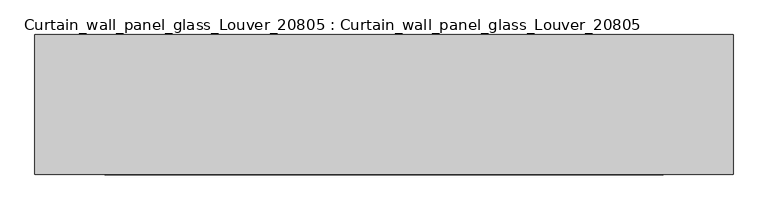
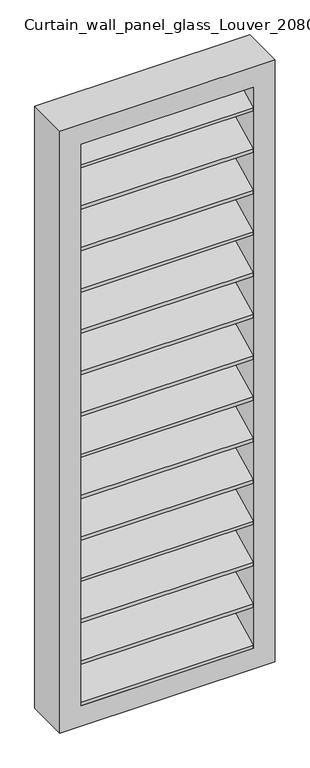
"""IFC4 building model written with IfcOpenShell, lengths in millimetres: plate geometry, Curtain_wall_panel_glass_Louver_20805 : Curtain_wall_panel_glass_Louver_20805."""

import ifcopenshell
import ifcopenshell.guid

model = None  # the IFC model being written
_history = None  # IfcOwnerHistory: only IFC2X3 demands one
_inside = {}  # id of a spatial element -> (the spatial element, [elements in it])
_under = {}  # id of a project, library or spatial element -> (it, [spatial elements below it])
_declared = {}  # id of a project -> (the project, [libraries it declares])
_typed = {}  # id of a type object -> (the type object, [elements of that type])
_made_of = {}  # id of a material, layer set ... -> (it, [elements and type objects made of it])


def new_model(schema):
    """Start an empty IFC model of exactly this schema.

    Asked for "IFC4X3", IfcOpenShell would pick the latest addendum, in which some entities
    have other attributes; the version numbers below select the first issue.
    IFC2X3 requires an IfcOwnerHistory on every rooted entity: one is made here for all.
    """
    global model, _history
    if schema == "IFC4X3":
        model = ifcopenshell.file(schema_version=(4, 3, 0, 0))
    else:
        model = ifcopenshell.file(schema=schema)
    _inside.clear()
    _under.clear()
    _declared.clear()
    _typed.clear()
    _made_of.clear()
    _history = None
    if model.schema == "IFC2X3":
        org = make("IfcOrganization", Name="unknown")
        user = make(
            "IfcPersonAndOrganization",
            ThePerson=make("IfcPerson", FamilyName="unknown"),
            TheOrganization=org,
        )
        app = make(
            "IfcApplication",
            ApplicationDeveloper=org,
            Version="unknown",
            ApplicationFullName="unknown",
            ApplicationIdentifier="unknown",
        )
        _history = make(
            "IfcOwnerHistory",
            OwningUser=user,
            OwningApplication=app,
            ChangeAction="ADDED",
            CreationDate=0,
        )
    return model


def make(cls, **values):
    """One entity of the class cls with the attributes given. An attribute that is None is left unset."""
    return model.create_entity(
        cls, **{name: value for name, value in values.items() if value is not None}
    )


def rooted(cls, **values):
    """An entity with a GlobalId (a new one), such as an element, a storey or a relation."""
    return make(cls, GlobalId=ifcopenshell.guid.new(), OwnerHistory=_history, **values)


def si_unit(unit_type, name, prefix=None):
    """IfcSIUnit, for example si_unit("LENGTHUNIT", "METRE", prefix="MILLI")."""
    return make("IfcSIUnit", UnitType=unit_type, Prefix=prefix, Name=name)


def assignment(units):
    """IfcUnitAssignment: the units of a project."""
    return None if units is None else make("IfcUnitAssignment", Units=units)


def point(xyz):
    """IfcCartesianPoint."""
    return None if xyz is None else make("IfcCartesianPoint", Coordinates=xyz)


def direction(xyz):
    """IfcDirection."""
    return None if xyz is None else make("IfcDirection", DirectionRatios=xyz)


def frame(location, z_axis=None, x_axis=None):
    """IfcAxis2Placement3D, a coordinate frame: its origin and axes. An axis left out is left unset."""
    return make(
        "IfcAxis2Placement3D",
        Location=point(location),
        Axis=direction(z_axis),
        RefDirection=direction(x_axis),
    )


def origin():
    """The frame at (0, 0, 0) with its axes left unset."""
    return frame((0.0, 0.0, 0.0))


def place(relative_to, where):
    """IfcLocalPlacement: puts the frame where relative to a parent placement (None: the world)."""
    return make(
        "IfcLocalPlacement", PlacementRelTo=relative_to, RelativePlacement=where
    )


def context(
    kind, dimensions, precision=None, world=None, true_north=None, identifier=None
):
    """IfcGeometricRepresentationContext, for example the 3D "Model" context."""
    return make(
        "IfcGeometricRepresentationContext",
        ContextIdentifier=identifier,
        ContextType=kind,
        CoordinateSpaceDimension=dimensions,
        Precision=precision,
        WorldCoordinateSystem=world,
        TrueNorth=true_north,
    )


def project(units=None, contexts=None):
    """IfcProject with its units and contexts."""
    return rooted(
        "IfcProject",
        Name="project",
        RepresentationContexts=contexts,
        UnitsInContext=assignment(units),
    )


def spatial(cls, under=None, at=None, **own):
    """A site, building, storey or space (cls), placed at a placement, below another one or the project."""
    s = rooted(cls, ObjectPlacement=at, **own)
    if under is not None:
        _under.setdefault(under.id(), (under, []))[1].append(s)
    return s


def polyline(points):
    """IfcPolyline through the points."""
    return make("IfcPolyline", Points=[point(p) for p in points])


def outline(outer, holes=None, kind="AREA"):
    """IfcArbitraryClosedProfileDef: a profile drawn as a closed curve; with holes, ...WithVoids."""
    if holes is None:
        return make("IfcArbitraryClosedProfileDef", ProfileType=kind, OuterCurve=outer)
    return make(
        "IfcArbitraryProfileDefWithVoids",
        ProfileType=kind,
        OuterCurve=outer,
        InnerCurves=holes,
    )


def extrude(swept, where, along, depth):
    """IfcExtrudedAreaSolid: the profile swept, set in the frame where, extruded along a direction by depth."""
    return make(
        "IfcExtrudedAreaSolid",
        SweptArea=swept,
        Position=where,
        ExtrudedDirection=direction(along),
        Depth=depth,
    )


def shape(context_of_items, identifier, shape_type, items):
    """IfcShapeRepresentation: the items that make up one representation, for example the "Body"."""
    return make(
        "IfcShapeRepresentation",
        ContextOfItems=context_of_items,
        RepresentationIdentifier=identifier,
        RepresentationType=shape_type,
        Items=items,
    )


def source(mapping_origin, context_of_items, identifier, shape_type, items):
    """IfcRepresentationMap: a shape defined once, which mapped items show again and again."""
    return make(
        "IfcRepresentationMap",
        MappingOrigin=mapping_origin,
        MappedRepresentation=shape(context_of_items, identifier, shape_type, items),
    )


def transform(
    local_origin,
    x_axis=None,
    y_axis=None,
    z_axis=None,
    scale=None,
    scale2=None,
    scale3=None,
    uniform=True,
):
    """IfcCartesianTransformationOperator3D, or its non-uniform kind. x_axis, y_axis, z_axis: its Axis1, 2, 3."""
    if uniform:
        return make(
            "IfcCartesianTransformationOperator3D",
            Axis1=direction(x_axis),
            Axis2=direction(y_axis),
            LocalOrigin=point(local_origin),
            Scale=scale,
            Axis3=direction(z_axis),
        )
    return make(
        "IfcCartesianTransformationOperator3DnonUniform",
        Axis1=direction(x_axis),
        Axis2=direction(y_axis),
        LocalOrigin=point(local_origin),
        Scale=scale,
        Axis3=direction(z_axis),
        Scale2=scale2,
        Scale3=scale3,
    )


def mapped(mapping_source, mapping_target):
    """IfcMappedItem: shows the shape of a source again, moved by a transform."""
    return make(
        "IfcMappedItem", MappingSource=mapping_source, MappingTarget=mapping_target
    )


def made_of(thing, what):
    """Note that an element or type object is made of a material, layer set ...; save() writes the relation."""
    if what is not None:
        _made_of.setdefault(what.id(), (what, []))[1].append(thing)
    return thing


def element(
    cls,
    number,
    at=None,
    inside=None,
    cuts=None,
    type_object=None,
    material=None,
    context=None,
    identifier="Body",
    shape_type=None,
    held_by="IfcProductDefinitionShape",
    body=None,
    shapes=None,
    **own,
):
    """One element of the class cls, such as IfcWall. Its Tag is "e" and its number.

    at: its placement. inside: the storey or other place that contains it. cuts: it is an
    opening in that element (IfcRelVoidsElement). A single representation is given by context,
    identifier, shape_type and body (its items); several are given by shapes. held_by: the class
    of the entity that holds the representations. save() writes the other relations.
    """
    e = rooted(cls, Tag="e%d" % number, ObjectPlacement=at, **own)
    if body is not None:
        shapes = [shape(context, identifier, shape_type, body)]
    if shapes is not None:
        e.Representation = make(held_by, Representations=shapes)
    if inside is not None:
        _inside.setdefault(inside.id(), (inside, []))[1].append(e)
    if cuts is not None:
        rooted(
            "IfcRelVoidsElement", RelatingBuildingElement=cuts, RelatedOpeningElement=e
        )
    if type_object is not None:
        _typed.setdefault(type_object.id(), (type_object, []))[1].append(e)
    return made_of(e, material)


def aggregate(whole, parts):
    """IfcRelAggregates: a whole, such as a stair, and the parts it consists of."""
    return rooted("IfcRelAggregates", RelatingObject=whole, RelatedObjects=parts)


def save(model, path):
    """Write the relations noted so far, then the file.

    IfcRelAggregates (storeys below a building ...), IfcRelContainedInSpatialStructure (elements
    in a storey), IfcRelDefinesByType, IfcRelAssociatesMaterial and IfcRelDeclares: one each for
    every whole, place, type object, material and project.
    """
    for whole, parts in _under.values():
        aggregate(whole, parts)
    for where, things in _inside.values():
        rooted(
            "IfcRelContainedInSpatialStructure",
            RelatedElements=things,
            RelatingStructure=where,
        )
    for kind, things in _typed.values():
        rooted("IfcRelDefinesByType", RelatedObjects=things, RelatingType=kind)
    for what, things in _made_of.values():
        rooted("IfcRelAssociatesMaterial", RelatedObjects=things, RelatingMaterial=what)
    for by, libraries in _declared.values():
        rooted("IfcRelDeclares", RelatingContext=by, RelatedDefinitions=libraries)
    model.write(path)


def curtain_wall_panel_glass_louver_20805_curtain_wall_panel_a56f4312(model_context):
    return source(origin(), model_context, "Body", "SweptSolid", [
        extrude(outline(polyline([(200.0, 199.3849981), (0.0, 100.0), (0.0, 116.7499328), (200.0, 216.1349309), (200.0, 199.3849981)])), frame((-399.25, 0.0, 0.0), z_axis=(1.0, 0.0, 0.0), x_axis=(0.0, 1.0, 0.0)), (0.0, 0.0, 1.0), 798.5),
        extrude(outline(polyline([(200.0, 2833.2500672), (0.0, 2733.8650691), (0.0, 2750.6150019), (200.0, 2850.0), (200.0, 2833.2500672)])), frame((-399.25, 0.0, 0.0), z_axis=(1.0, 0.0, 0.0), x_axis=(0.0, 1.0, 0.0)), (0.0, 0.0, 1.0), 798.5),
        extrude(outline(polyline([(200.0, 401.9900034), (0.0, 302.6050053), (0.0, 319.3549382), (200.0, 418.7399363), (200.0, 401.9900034)])), frame((-399.25, 0.0, 0.0), z_axis=(1.0, 0.0, 0.0), x_axis=(0.0, 1.0, 0.0)), (0.0, 0.0, 1.0), 798.5),
        extrude(outline(polyline([(200.0, 604.5950087), (0.0, 505.2100106), (0.0, 521.9599435), (200.0, 621.3449416), (200.0, 604.5950087)])), frame((-399.25, 0.0, 0.0), z_axis=(1.0, 0.0, 0.0), x_axis=(0.0, 1.0, 0.0)), (0.0, 0.0, 1.0), 798.5),
        extrude(outline(polyline([(200.0, 807.200014), (0.0, 707.8150159), (0.0, 724.5649488), (200.0, 823.9499469), (200.0, 807.200014)])), frame((-399.25, 0.0, 0.0), z_axis=(1.0, 0.0, 0.0), x_axis=(0.0, 1.0, 0.0)), (0.0, 0.0, 1.0), 798.5),
        extrude(outline(polyline([(200.0, 1009.8050193), (0.0, 910.4200212), (0.0, 927.1699541), (200.0, 1026.5549522), (200.0, 1009.8050193)])), frame((-399.25, 0.0, 0.0), z_axis=(1.0, 0.0, 0.0), x_axis=(0.0, 1.0, 0.0)), (0.0, 0.0, 1.0), 798.5),
        extrude(outline(polyline([(200.0, 1212.4100247), (0.0, 1113.0250266), (0.0, 1129.7749594), (200.0, 1229.1599575), (200.0, 1212.4100247)])), frame((-399.25, 0.0, 0.0), z_axis=(1.0, 0.0, 0.0), x_axis=(0.0, 1.0, 0.0)), (0.0, 0.0, 1.0), 798.5),
        extrude(outline(polyline([(200.0, 1415.01503), (0.0, 1315.6300319), (0.0, 1332.3799647), (200.0, 1431.7649628), (200.0, 1415.01503)])), frame((-399.25, 0.0, 0.0), z_axis=(1.0, 0.0, 0.0), x_axis=(0.0, 1.0, 0.0)), (0.0, 0.0, 1.0), 798.5),
        extrude(outline(polyline([(200.0, 1617.6200353), (0.0, 1518.2350372), (0.0, 1534.98497), (200.0, 1634.3699681), (200.0, 1617.6200353)])), frame((-399.25, 0.0, 0.0), z_axis=(1.0, 0.0, 0.0), x_axis=(0.0, 1.0, 0.0)), (0.0, 0.0, 1.0), 798.5),
        extrude(outline(polyline([(200.0, 1820.2250406), (0.0, 1720.8400425), (0.0, 1737.5899753), (200.0, 1836.9749734), (200.0, 1820.2250406)])), frame((-399.25, 0.0, 0.0), z_axis=(1.0, 0.0, 0.0), x_axis=(0.0, 1.0, 0.0)), (0.0, 0.0, 1.0), 798.5),
        extrude(outline(polyline([(200.0, 2022.8300459), (0.0, 1923.4450478), (0.0, 1940.1949807), (200.0, 2039.5799788), (200.0, 2022.8300459)])), frame((-399.25, 0.0, 0.0), z_axis=(1.0, 0.0, 0.0), x_axis=(0.0, 1.0, 0.0)), (0.0, 0.0, 1.0), 798.5),
        extrude(outline(polyline([(200.0, 2225.4350512), (0.0, 2126.0500531), (0.0, 2142.799986), (200.0, 2242.1849841), (200.0, 2225.4350512)])), frame((-399.25, 0.0, 0.0), z_axis=(1.0, 0.0, 0.0), x_axis=(0.0, 1.0, 0.0)), (0.0, 0.0, 1.0), 798.5),
        extrude(outline(polyline([(200.0, 2428.0400565), (0.0, 2328.6550584), (0.0, 2345.4049913), (200.0, 2444.7899894), (200.0, 2428.0400565)])), frame((-399.25, 0.0, 0.0), z_axis=(1.0, 0.0, 0.0), x_axis=(0.0, 1.0, 0.0)), (0.0, 0.0, 1.0), 798.5),
        extrude(outline(polyline([(200.0, 2630.6450618), (0.0, 2531.2600637), (0.0, 2548.0099966), (200.0, 2647.3949947), (200.0, 2630.6450618)])), frame((-399.25, 0.0, 0.0), z_axis=(1.0, 0.0, 0.0), x_axis=(0.0, 1.0, 0.0)), (0.0, 0.0, 1.0), 798.5),
        extrude(outline(polyline([(2950.0, -499.25), (0.0, -499.25), (0.0, 499.25), (2950.0, 499.25), (2950.0, -499.25)]), holes=[polyline([(2850.0, -399.25), (2850.0, 399.25), (100.0, 399.25), (100.0, -399.25), (2850.0, -399.25)])]), frame((0.0, 0.0, 0.0), z_axis=(0.0, 1.0, 0.0), x_axis=(0.0, 0.0, 1.0)), (0.0, 0.0, 1.0), 200.0),
    ])


if __name__ == "__main__":
    model = new_model("IFC4")
    model_context = context("Model", 3, world=origin())
    ifc_project = project(units=[si_unit("LENGTHUNIT", "METRE", prefix="MILLI")], contexts=[model_context])
    site = spatial("IfcSite", under=ifc_project)
    building = spatial("IfcBuilding", under=site)
    placement = place(None, origin())
    curtain_wall_panel_glass_louver_20805_curtain_wall_panel_shape = curtain_wall_panel_glass_louver_20805_curtain_wall_panel_a56f4312(model_context)
    element("IfcPlate", 1, ObjectType="Curtain_wall_panel_glass_Louver_20805 : Curtain_wall_panel_glass_Louver_20805", at=placement, inside=building, context=model_context, shape_type="MappedRepresentation", body=[
        mapped(curtain_wall_panel_glass_louver_20805_curtain_wall_panel_shape, transform((0.0, 0.0, 0.0), x_axis=(1.0, 0.0, 0.0), y_axis=(0.0, 1.0, 0.0), z_axis=(0.0, 0.0, 1.0))),
    ])
    save(model, "model.ifc")
